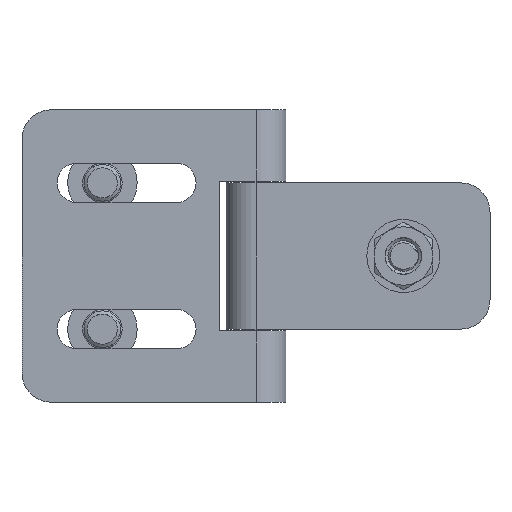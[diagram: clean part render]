
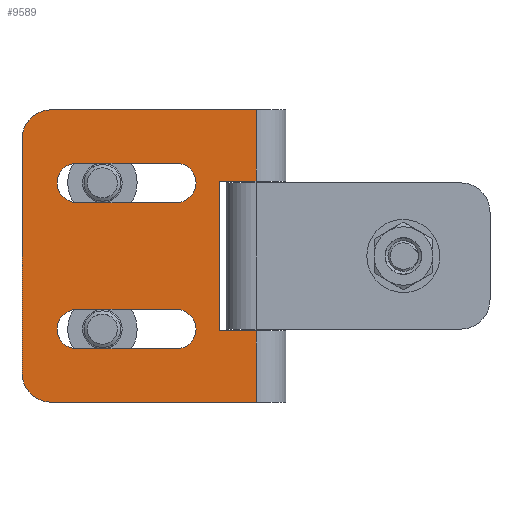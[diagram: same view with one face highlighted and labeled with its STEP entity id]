
A CAD part, front view. The second image highlights one B-rep face of the part: STEP entity #9589.
In plain terms, the highlighted planar face has unit normal (0, -1, 0).
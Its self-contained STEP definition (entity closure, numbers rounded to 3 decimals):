
#66 = VECTOR ( 'NONE', #6886, 1000. ) ;
#86 = EDGE_CURVE ( 'NONE', #3260, #8855, #9576, .T. ) ;
#87 = LINE ( 'NONE', #1586, #10097 ) ;
#349 = EDGE_CURVE ( 'NONE', #4391, #6346, #6063, .T. ) ;
#427 = DIRECTION ( 'NONE',  ( 0., 1., 0. ) ) ;
#472 = CARTESIAN_POINT ( 'NONE',  ( -10.9, -4.1, -12.7 ) ) ;
#493 = DIRECTION ( 'NONE',  ( -1., 0., 0. ) ) ;
#517 = CIRCLE ( 'NONE', #7156, 2.7 ) ;
#529 = DIRECTION ( 'NONE',  ( -1., 0., 0. ) ) ;
#596 = CIRCLE ( 'NONE', #5220, 2.7 ) ;
#635 = CARTESIAN_POINT ( 'NONE',  ( -32., -4.1, 12.7 ) ) ;
#655 = DIRECTION ( 'NONE',  ( 0., 1., 0. ) ) ;
#667 = DIRECTION ( 'NONE',  ( 0., 0., -1. ) ) ;
#708 = CARTESIAN_POINT ( 'NONE',  ( -24.5, -4.1, -7.3 ) ) ;
#736 = ORIENTED_EDGE ( 'NONE', *, *, #8553, .F. ) ;
#787 = ORIENTED_EDGE ( 'NONE', *, *, #2319, .F. ) ;
#791 = VECTOR ( 'NONE', #493, 1000. ) ;
#802 = LINE ( 'NONE', #6252, #8409 ) ;
#881 = ORIENTED_EDGE ( 'NONE', *, *, #6603, .F. ) ;
#932 = VERTEX_POINT ( 'NONE', #472 ) ;
#1084 = FACE_OUTER_BOUND ( 'NONE', #7109, .T. ) ;
#1122 = ORIENTED_EDGE ( 'NONE', *, *, #2977, .F. ) ;
#1234 = DIRECTION ( 'NONE',  ( 0., 0., 1. ) ) ;
#1263 = CARTESIAN_POINT ( 'NONE',  ( -28., -4.1, -16. ) ) ;
#1370 = CARTESIAN_POINT ( 'NONE',  ( -32., -4.1, -16. ) ) ;
#1446 = AXIS2_PLACEMENT_3D ( 'NONE', #1263, #427, #7219 ) ;
#1472 = DIRECTION ( 'NONE',  ( 0., 0., 1. ) ) ;
#1586 = CARTESIAN_POINT ( 'NONE',  ( 0., -4.1, 20. ) ) ;
#1623 = DIRECTION ( 'NONE',  ( 0., -1., 0. ) ) ;
#1643 = EDGE_CURVE ( 'NONE', #6700, #6976, #9423, .T. ) ;
#1830 = ORIENTED_EDGE ( 'NONE', *, *, #4542, .F. ) ;
#1943 = CARTESIAN_POINT ( 'NONE',  ( -10.9, -4.1, 12.7 ) ) ;
#2125 = ORIENTED_EDGE ( 'NONE', *, *, #3431, .F. ) ;
#2153 = CARTESIAN_POINT ( 'NONE',  ( -5., -4.1, -10.25 ) ) ;
#2273 = EDGE_CURVE ( 'NONE', #6976, #9209, #87, .T. ) ;
#2316 = CARTESIAN_POINT ( 'NONE',  ( -24.5, -4.1, 10. ) ) ;
#2319 = EDGE_CURVE ( 'NONE', #10150, #10126, #6714, .T. ) ;
#2367 = EDGE_CURVE ( 'NONE', #5006, #932, #4723, .T. ) ;
#2409 = ORIENTED_EDGE ( 'NONE', *, *, #2367, .F. ) ;
#2429 = FACE_BOUND ( 'NONE', #9028, .T. ) ;
#2460 = CARTESIAN_POINT ( 'NONE',  ( -10.9, -4.1, -10. ) ) ;
#2516 = ORIENTED_EDGE ( 'NONE', *, *, #10358, .F. ) ;
#2524 = LINE ( 'NONE', #10708, #791 ) ;
#2607 = CARTESIAN_POINT ( 'NONE',  ( -28., -4.1, 16. ) ) ;
#2977 = EDGE_CURVE ( 'NONE', #4593, #3049, #6300, .T. ) ;
#3049 = VERTEX_POINT ( 'NONE', #2153 ) ;
#3260 = VERTEX_POINT ( 'NONE', #3922 ) ;
#3274 = VECTOR ( 'NONE', #10853, 1000. ) ;
#3286 = CARTESIAN_POINT ( 'NONE',  ( -10.9, -4.1, 10. ) ) ;
#3312 = VERTEX_POINT ( 'NONE', #9236 ) ;
#3426 = ORIENTED_EDGE ( 'NONE', *, *, #4807, .F. ) ;
#3431 = EDGE_CURVE ( 'NONE', #10126, #4391, #596, .T. ) ;
#3922 = CARTESIAN_POINT ( 'NONE',  ( -28., -4.1, -20. ) ) ;
#3991 = CARTESIAN_POINT ( 'NONE',  ( -32., -4.1, 16. ) ) ;
#4130 = CARTESIAN_POINT ( 'NONE',  ( -32., -4.1, -12.7 ) ) ;
#4341 = VECTOR ( 'NONE', #6596, 1000. ) ;
#4391 = VERTEX_POINT ( 'NONE', #1943 ) ;
#4398 = VECTOR ( 'NONE', #10933, 1000. ) ;
#4412 = CARTESIAN_POINT ( 'NONE',  ( -24.5, -4.1, 7.3 ) ) ;
#4422 = CARTESIAN_POINT ( 'NONE',  ( 0., -4.1, 10.25 ) ) ;
#4542 = EDGE_CURVE ( 'NONE', #8855, #5662, #802, .T. ) ;
#4593 = VERTEX_POINT ( 'NONE', #6204 ) ;
#4656 = ORIENTED_EDGE ( 'NONE', *, *, #86, .F. ) ;
#4706 = EDGE_CURVE ( 'NONE', #9209, #4593, #2524, .T. ) ;
#4723 = LINE ( 'NONE', #4130, #9546 ) ;
#4761 = CARTESIAN_POINT ( 'NONE',  ( 0., -4.1, -20. ) ) ;
#4807 = EDGE_CURVE ( 'NONE', #6346, #10150, #5457, .T. ) ;
#4808 = CARTESIAN_POINT ( 'NONE',  ( -32., -4.1, -10.25 ) ) ;
#4849 = EDGE_CURVE ( 'NONE', #10807, #8791, #5041, .T. ) ;
#4941 = ORIENTED_EDGE ( 'NONE', *, *, #4849, .F. ) ;
#5006 = VERTEX_POINT ( 'NONE', #10084 ) ;
#5041 = LINE ( 'NONE', #9253, #4398 ) ;
#5220 = AXIS2_PLACEMENT_3D ( 'NONE', #3286, #11013, #5871 ) ;
#5457 = CIRCLE ( 'NONE', #10116, 2.7 ) ;
#5463 = VECTOR ( 'NONE', #10491, 1000. ) ;
#5487 = AXIS2_PLACEMENT_3D ( 'NONE', #5767, #655, #1472 ) ;
#5556 = CIRCLE ( 'NONE', #9873, 2.7 ) ;
#5662 = VERTEX_POINT ( 'NONE', #3991 ) ;
#5767 = CARTESIAN_POINT ( 'NONE',  ( -32., -4.1, 20. ) ) ;
#5781 = CARTESIAN_POINT ( 'NONE',  ( -32., -4.1, 20. ) ) ;
#5821 = DIRECTION ( 'NONE',  ( 0., 0., -1. ) ) ;
#5833 = EDGE_CURVE ( 'NONE', #9050, #5006, #517, .T. ) ;
#5853 = FACE_BOUND ( 'NONE', #10788, .T. ) ;
#5858 = DIRECTION ( 'NONE',  ( 0., 0., -1. ) ) ;
#5871 = DIRECTION ( 'NONE',  ( 0., 0., -1. ) ) ;
#5873 = AXIS2_PLACEMENT_3D ( 'NONE', #2607, #7826, #9592 ) ;
#5940 = LINE ( 'NONE', #7937, #6215 ) ;
#6013 = CARTESIAN_POINT ( 'NONE',  ( -5., -4.1, 20. ) ) ;
#6063 = LINE ( 'NONE', #635, #7830 ) ;
#6125 = VECTOR ( 'NONE', #9111, 1000. ) ;
#6204 = CARTESIAN_POINT ( 'NONE',  ( -5., -4.1, 10.25 ) ) ;
#6215 = VECTOR ( 'NONE', #10567, 1000. ) ;
#6252 = CARTESIAN_POINT ( 'NONE',  ( -32., -4.1, 20. ) ) ;
#6300 = LINE ( 'NONE', #6013, #66 ) ;
#6346 = VERTEX_POINT ( 'NONE', #10718 ) ;
#6394 = LINE ( 'NONE', #4808, #6125 ) ;
#6471 = PLANE ( 'NONE',  #5487 ) ;
#6596 = DIRECTION ( 'NONE',  ( 1., 0., 0. ) ) ;
#6603 = EDGE_CURVE ( 'NONE', #8791, #3260, #5940, .T. ) ;
#6614 = DIRECTION ( 'NONE',  ( 0., 0., -1. ) ) ;
#6616 = ORIENTED_EDGE ( 'NONE', *, *, #4706, .F. ) ;
#6662 = DIRECTION ( 'NONE',  ( 0., -1., 0. ) ) ;
#6689 = CARTESIAN_POINT ( 'NONE',  ( -24.5, -4.1, -10. ) ) ;
#6700 = VERTEX_POINT ( 'NONE', #9667 ) ;
#6714 = LINE ( 'NONE', #9800, #4341 ) ;
#6886 = DIRECTION ( 'NONE',  ( 0., 0., -1. ) ) ;
#6976 = VERTEX_POINT ( 'NONE', #7456 ) ;
#7109 = EDGE_LOOP ( 'NONE', ( #1122, #6616, #9476, #7993, #10740, #1830, #4656, #881, #4941, #2516 ) ) ;
#7156 = AXIS2_PLACEMENT_3D ( 'NONE', #6689, #11001, #5858 ) ;
#7219 = DIRECTION ( 'NONE',  ( 0., 0., -1. ) ) ;
#7456 = CARTESIAN_POINT ( 'NONE',  ( 0., -4.1, 20. ) ) ;
#7719 = ORIENTED_EDGE ( 'NONE', *, *, #10712, .F. ) ;
#7826 = DIRECTION ( 'NONE',  ( 0., 1., 0. ) ) ;
#7830 = VECTOR ( 'NONE', #529, 1000. ) ;
#7935 = CARTESIAN_POINT ( 'NONE',  ( -32., -4.1, -7.3 ) ) ;
#7937 = CARTESIAN_POINT ( 'NONE',  ( -32., -4.1, -20. ) ) ;
#7993 = ORIENTED_EDGE ( 'NONE', *, *, #1643, .F. ) ;
#8409 = VECTOR ( 'NONE', #1234, 1000. ) ;
#8553 = EDGE_CURVE ( 'NONE', #932, #3312, #5556, .T. ) ;
#8699 = CARTESIAN_POINT ( 'NONE',  ( -10.9, -4.1, 7.3 ) ) ;
#8791 = VERTEX_POINT ( 'NONE', #4761 ) ;
#8855 = VERTEX_POINT ( 'NONE', #1370 ) ;
#9028 = EDGE_LOOP ( 'NONE', ( #787, #3426, #10268, #2125 ) ) ;
#9050 = VERTEX_POINT ( 'NONE', #708 ) ;
#9111 = DIRECTION ( 'NONE',  ( 1., 0., 0. ) ) ;
#9209 = VERTEX_POINT ( 'NONE', #4422 ) ;
#9215 = LINE ( 'NONE', #7935, #5463 ) ;
#9236 = CARTESIAN_POINT ( 'NONE',  ( -10.9, -4.1, -7.3 ) ) ;
#9253 = CARTESIAN_POINT ( 'NONE',  ( 0., -4.1, 20. ) ) ;
#9407 = ORIENTED_EDGE ( 'NONE', *, *, #5833, .F. ) ;
#9423 = LINE ( 'NONE', #5781, #3274 ) ;
#9476 = ORIENTED_EDGE ( 'NONE', *, *, #2273, .F. ) ;
#9546 = VECTOR ( 'NONE', #10102, 1000. ) ;
#9576 = CIRCLE ( 'NONE', #1446, 4. ) ;
#9589 = ADVANCED_FACE ( 'NONE', ( #1084, #2429, #5853 ), #6471, .F. ) ;
#9592 = DIRECTION ( 'NONE',  ( 0., 0., -1. ) ) ;
#9667 = CARTESIAN_POINT ( 'NONE',  ( -28., -4.1, 20. ) ) ;
#9782 = CARTESIAN_POINT ( 'NONE',  ( 0., -4.1, -10.25 ) ) ;
#9800 = CARTESIAN_POINT ( 'NONE',  ( -32., -4.1, 7.3 ) ) ;
#9873 = AXIS2_PLACEMENT_3D ( 'NONE', #2460, #1623, #6614 ) ;
#10084 = CARTESIAN_POINT ( 'NONE',  ( -24.5, -4.1, -12.7 ) ) ;
#10097 = VECTOR ( 'NONE', #667, 1000. ) ;
#10102 = DIRECTION ( 'NONE',  ( 1., 0., 0. ) ) ;
#10116 = AXIS2_PLACEMENT_3D ( 'NONE', #2316, #6662, #5821 ) ;
#10126 = VERTEX_POINT ( 'NONE', #8699 ) ;
#10150 = VERTEX_POINT ( 'NONE', #4412 ) ;
#10268 = ORIENTED_EDGE ( 'NONE', *, *, #349, .F. ) ;
#10358 = EDGE_CURVE ( 'NONE', #3049, #10807, #6394, .T. ) ;
#10491 = DIRECTION ( 'NONE',  ( -1., 0., 0. ) ) ;
#10567 = DIRECTION ( 'NONE',  ( -1., 0., 0. ) ) ;
#10627 = EDGE_CURVE ( 'NONE', #5662, #6700, #10943, .T. ) ;
#10708 = CARTESIAN_POINT ( 'NONE',  ( -32., -4.1, 10.25 ) ) ;
#10712 = EDGE_CURVE ( 'NONE', #3312, #9050, #9215, .T. ) ;
#10718 = CARTESIAN_POINT ( 'NONE',  ( -24.5, -4.1, 12.7 ) ) ;
#10740 = ORIENTED_EDGE ( 'NONE', *, *, #10627, .F. ) ;
#10788 = EDGE_LOOP ( 'NONE', ( #2409, #9407, #7719, #736 ) ) ;
#10807 = VERTEX_POINT ( 'NONE', #9782 ) ;
#10853 = DIRECTION ( 'NONE',  ( 1., 0., 0. ) ) ;
#10933 = DIRECTION ( 'NONE',  ( 0., 0., -1. ) ) ;
#10943 = CIRCLE ( 'NONE', #5873, 4. ) ;
#11001 = DIRECTION ( 'NONE',  ( 0., -1., 0. ) ) ;
#11013 = DIRECTION ( 'NONE',  ( 0., -1., 0. ) ) ;
